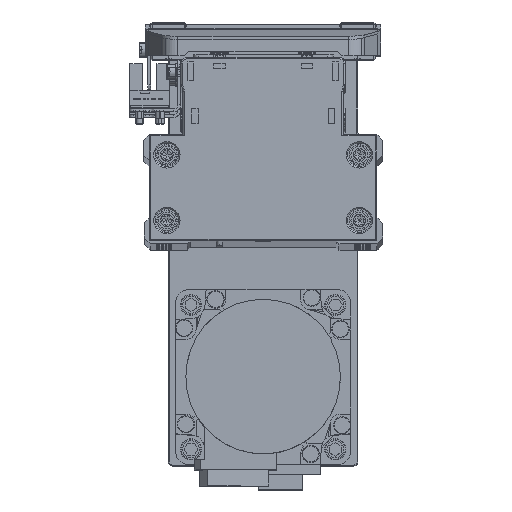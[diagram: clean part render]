
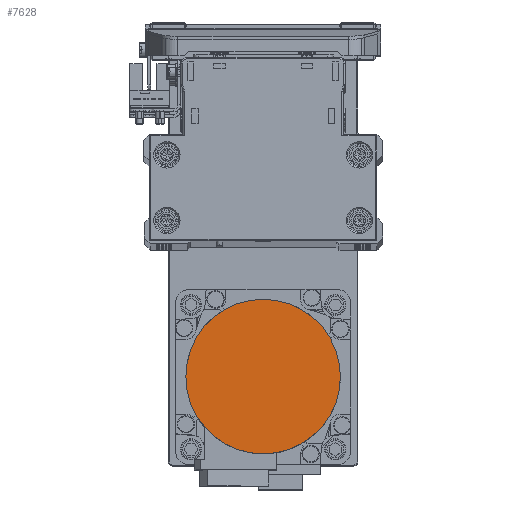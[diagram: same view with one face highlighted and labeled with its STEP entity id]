
A CAD part, top view. The second image highlights one B-rep face of the part: STEP entity #7628.
In plain terms, the highlighted planar face has unit normal (0, 0, 1) as drawn and (0, 0, -1) by its records, which use the part's own axes.
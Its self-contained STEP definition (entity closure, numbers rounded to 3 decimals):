
#243 = DIRECTION ( 'NONE',  ( 1., 0., 0. ) ) ;
#1780 = AXIS2_PLACEMENT_3D ( 'NONE', #7172, #20045, #32925 ) ;
#2031 = ORIENTED_EDGE ( 'NONE', *, *, #7436, .F. ) ;
#3401 = PLANE ( 'NONE',  #32681 ) ;
#4343 = AXIS2_PLACEMENT_3D ( 'NONE', #15253, #28133, #41024 ) ;
#7172 = CARTESIAN_POINT ( 'NONE',  ( 0., 0., -109.7 ) ) ;
#7436 = EDGE_CURVE ( 'NONE', #18464, #36921, #22547, .T. ) ;
#7628 = ADVANCED_FACE ( 'NONE', ( #32340 ), #3401, .F. ) ;
#10730 = EDGE_CURVE ( 'NONE', #36921, #18464, #38202, .T. ) ;
#11882 = EDGE_LOOP ( 'NONE', ( #2031, #16419 ) ) ;
#15063 = CARTESIAN_POINT ( 'NONE',  ( 26.5, 0., -109.7 ) ) ;
#15253 = CARTESIAN_POINT ( 'NONE',  ( 0., 0., -109.7 ) ) ;
#15278 = CARTESIAN_POINT ( 'NONE',  ( -26.5, 0., -109.7 ) ) ;
#16278 = CARTESIAN_POINT ( 'NONE',  ( 0., 0., -109.7 ) ) ;
#16419 = ORIENTED_EDGE ( 'NONE', *, *, #10730, .F. ) ;
#18464 = VERTEX_POINT ( 'NONE', #15278 ) ;
#20045 = DIRECTION ( 'NONE',  ( 0., 0., 1. ) ) ;
#22547 = CIRCLE ( 'NONE', #4343, 26.5 ) ;
#28133 = DIRECTION ( 'NONE',  ( 0., 0., 1. ) ) ;
#29161 = DIRECTION ( 'NONE',  ( 0., 0., 1. ) ) ;
#32340 = FACE_OUTER_BOUND ( 'NONE', #11882, .T. ) ;
#32681 = AXIS2_PLACEMENT_3D ( 'NONE', #16278, #29161, #243 ) ;
#32925 = DIRECTION ( 'NONE',  ( 1., 0., 0. ) ) ;
#36921 = VERTEX_POINT ( 'NONE', #15063 ) ;
#38202 = CIRCLE ( 'NONE', #1780, 26.5 ) ;
#41024 = DIRECTION ( 'NONE',  ( -1., 0., 0. ) ) ;
